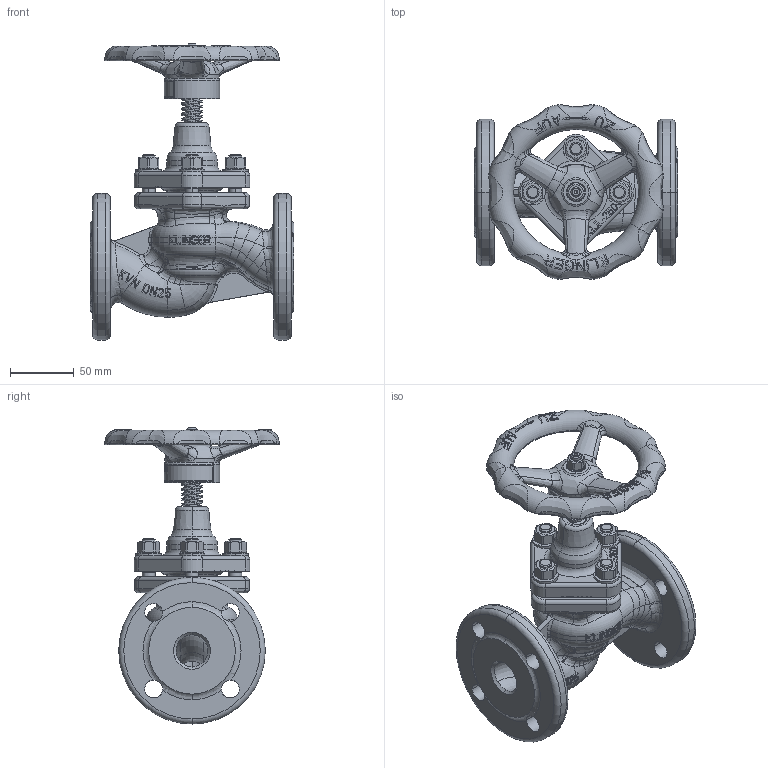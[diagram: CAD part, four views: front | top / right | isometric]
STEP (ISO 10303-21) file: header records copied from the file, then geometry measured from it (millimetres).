
FILE_DESCRIPTION((''),'2;1');
FILE_NAME('KVNFL025S-----P016DGG_SW0001','2014-09-22T',('schwaba'),('RAND'),'PRO/ENGINEER BY PARAMETRIC TECHNOLOGY CORPORATION, 2013410','PRO/ENGINEER BY PARAMETRIC TECHNOLOGY CORPORATION, 2013410','');
FILE_SCHEMA(('CONFIG_CONTROL_DESIGN'));
Products named in the file (1): KVNFL025S-----P016DGG_SW0001
Bounding box: 160 x 137.21 x 232.3 mm (x, y, z)
Volume: 727402.5 mm3; surface area: 185078.8 mm2
Topology: 3 solids, 5 shells, 2792 faces, 7541 edges, 4770 vertices
Faces by surface type: plane 1471, bspline 650, cylinder 363, torus 193, cone 111, sphere 4
Entity records: 175047 total; most frequent: CARTESIAN_POINT 111923, ORIENTED_EDGE 15074, DIRECTION 10416, EDGE_CURVE 7537, VERTEX_POINT 4770, AXIS2_PLACEMENT_3D 3703, VECTOR 3010, LINE 3010
